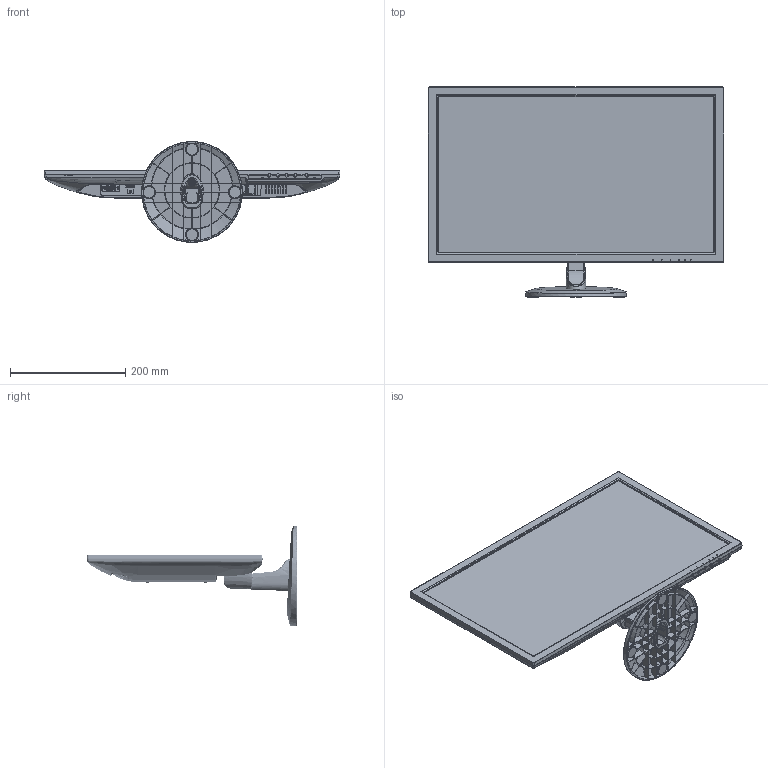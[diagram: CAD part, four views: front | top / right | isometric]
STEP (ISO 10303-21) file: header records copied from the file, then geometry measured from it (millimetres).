
FILE_DESCRIPTION (( 'STEP AP214' ), '1' );
FILE_NAME ('997-8001-00 RevA_stp.STEP', '2015-05-28T23:43:08', ( 'IT Admin' ), ( 'Planar Systems, iNC.' ), 'SwSTEP 2.0', 'SolidWorks 2014', '' );
FILE_SCHEMA (( 'AUTOMOTIVE_DESIGN' ));
Length unit declared in the file: millimetre
Products named in the file (53): PXL2270MW_CONNECTOR-001_1; PXL2270MW_AC_SOCKET_BKT-HOTSWITCH; PXL2270MW_L22BDIM-REAR_COVER-BOE-120; PXL2270MW_215_REVERSE_3D_130722_2_ASM; PXL2270MW_HOT-SWITCH-W11_ASM_1_ASM; PXL2270MW_MANIFOLD_SOLID_BREP_564577; PXL2270MW_MANIFOLD_SOLID_BREP_633174; 997-8001-00 RevA_stp; PXL2270MW_L22BDIM-FRONT_BEZEL; PXL2270MW_MANIFOLD_SOLID_BREP_632906; PXL2270MW_L22BD-MB-140X70-DP-H-V-AUDIO; PXL2270MW_MANIFOLD_SOLID_BREP_632738; PXL2270MW_DISPLAY_PORT_1352M20-350071T; PXL2270MW_MANIFOLD_SOLID_BREP_632570; PXL2270MW_WTJ-035-24ZLA01_3_ASM_ASM; PXL2270MW_MANIFOLD_SOLID_BREP_632302; PXL2270MW_L22BDIM-STAND-ASM_ASM; PXL2270MW_MANIFOLD_SOLID_BREP_414600; PXL2270MW_MANIFOLD_SOLID_BREP_629819; PXL2270MW_FOOT_PAD; PXL2270MW_MANIFOLD_SOLID_BREP_409294; PXL2270MW_MANIFOLD_SOLID_BREP_628602; PXL2270MW_L22BDIM-HINGE; PXL2270MW_MANIFOLD_SOLID_BREP_403745; PXL2270MW_MANIFOLD_SOLID_BREP_627385; PXL2270MW_MANIFOLD_SOLID_BREP_413365; PXL2270MW_MANIFOLD_SOLID_BREP_400304; PXL2270MW_MANIFOLD_SOLID_BREP_626331; PXL2270MW_MANIFOLD_SOLID_BREP_410731; PLX2270MW_MANIFOLD_SOLID_BREP_399439; PXL2270MW_BREP_WITH_VOIDS_625277; PXL2270MW_L22BDIM-NECK; PXL2270MW_HDMI-2407640519P-219_3_ASM; PXL2270MW_MANIFOLD_SOLID_BREP_617691; PXL2270MW_L22BDIM-STAND; PXL2270MW_MANIFOLD_SOLID_BREP_397627; PXL2270MW_MANIFOLD_SOLID_BREP_617205; PXL2270MW_PLANAR-MAIN_ASM; PXL2270MW_MANIFOLD_SOLID_BREP_381900; PXL2270MW_MANIFOLD_SOLID_BREP_616719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
Assembly tree (55 placements, depth 9):
  997-8001-00 RevA_stp
    PXL2270MW_PLANAR-MAIN_ASM
      PXL2270MW_PLANAR-DISPLAY_ASM
        PXL2270MW_PLANAR-DISPLAY_ASM_ASM
          PXL2270MW_STAND-H-ASM_ASM_6_ASM
            PXL2270MW_L22BDIM-REAR_COVER-BOE-120
            PXL2270MW_L22BD-METAL_FITTG-HR215WU1-120
            PXL2270MW_L22BD-MB-140X70-DP-H-V-AUDIO
              PXL2270MW_D-SUB-VGA-PORT
              PXL2270MW_HDMI-2407640519P-219_3_ASM
                PXL2270MW_MANIFOLD_SOLID_BREP_381724
                PXL2270MW_MANIFOLD_SOLID_BREP_381812
                PXL2270MW_MANIFOLD_SOLID_BREP_381900
                PXL2270MW_MANIFOLD_SOLID_BREP_397627
              PXL2270MW_WTJ-035-24ZLA01_3_ASM_ASM
                PLX2270MW_MANIFOLD_SOLID_BREP_399439
                PXL2270MW_MANIFOLD_SOLID_BREP_400304
                PXL2270MW_MANIFOLD_SOLID_BREP_403745
                PXL2270MW_MANIFOLD_SOLID_BREP_409294
                PXL2270MW_MANIFOLD_SOLID_BREP_414600
              PXL2270MW_DISPLAY_PORT_1352M20-350071T
            PXL2270MW_L22BDIM-FRONT_BEZEL
            PXL2270MW_215_REVERSE_3D_130722_2_ASM
              PXL2270MW_MANIFOLD_SOLID_BREP_564577
            PXL2270MW_POWER_BOARD-136X130_ASM
              PXL2270MW_CONNECTOR-001_1
              PXL2270MW_AC_SOCKET_HOTSWITCH-ASM_ASM_1
                PXL2270MW_HOT-SWITCH-W11_ASM_1_ASM
                  PXL2270MW_MANIFOLD_SOLID_BREP_613820
                  PXL2270MW_MANIFOLD_SOLID_BREP_614536
                  PXL2270MW_MANIFOLD_SOLID_BREP_615182
                  PXL2270MW_MANIFOLD_SOLID_BREP_615828
                  PXL2270MW_MANIFOLD_SOLID_BREP_616719
                  PXL2270MW_MANIFOLD_SOLID_BREP_617205
                  PXL2270MW_MANIFOLD_SOLID_BREP_617691
                  PXL2270MW_BREP_WITH_VOIDS_625277
                  PXL2270MW_MANIFOLD_SOLID_BREP_626331
                  PXL2270MW_MANIFOLD_SOLID_BREP_627385
                  PXL2270MW_MANIFOLD_SOLID_BREP_628602
                  PXL2270MW_MANIFOLD_SOLID_BREP_629819
                  PXL2270MW_MANIFOLD_SOLID_BREP_632302
                  PXL2270MW_MANIFOLD_SOLID_BREP_632570
                  PXL2270MW_MANIFOLD_SOLID_BREP_632738
                  PXL2270MW_MANIFOLD_SOLID_BREP_632906
                  PXL2270MW_MANIFOLD_SOLID_BREP_633174
                PXL2270MW_AC_SOCKET_BKT-HOTSWITCH
    PXL2270MW_L22BDIM-STAND-ASM_ASM
      PXL2270MW_L22BDIM-STAND
      PXL2270MW_L22BDIM-NECK
      PXL2270MW_L22BDIM-HINGE
        PXL2270MW_MANIFOLD_SOLID_BREP_410731
        PXL2270MW_MANIFOLD_SOLID_BREP_413365
      PXL2270MW_FOOT_PAD  x4
Bounding box: 513.23 x 364.69 x 174.91 mm (x, y, z)
Volume: 718831.8 mm3; surface area: 953201.3 mm2
Topology: 43 solids, 46 shells, 9809 faces, 27171 edges, 17634 vertices
Faces by surface type: plane 6068, cylinder 1989, bspline 1645, cone 92, torus 15
Full cylindrical faces by diameter (mm): 10 x2
Entity records: 459773 total; most frequent: CARTESIAN_POINT 236817, ORIENTED_EDGE 54234, DIRECTION 32674, EDGE_CURVE 27121, VERTEX_POINT 17622, VECTOR 13488, LINE 13488, B_SPLINE_CURVE_WITH_KNOTS 11750
